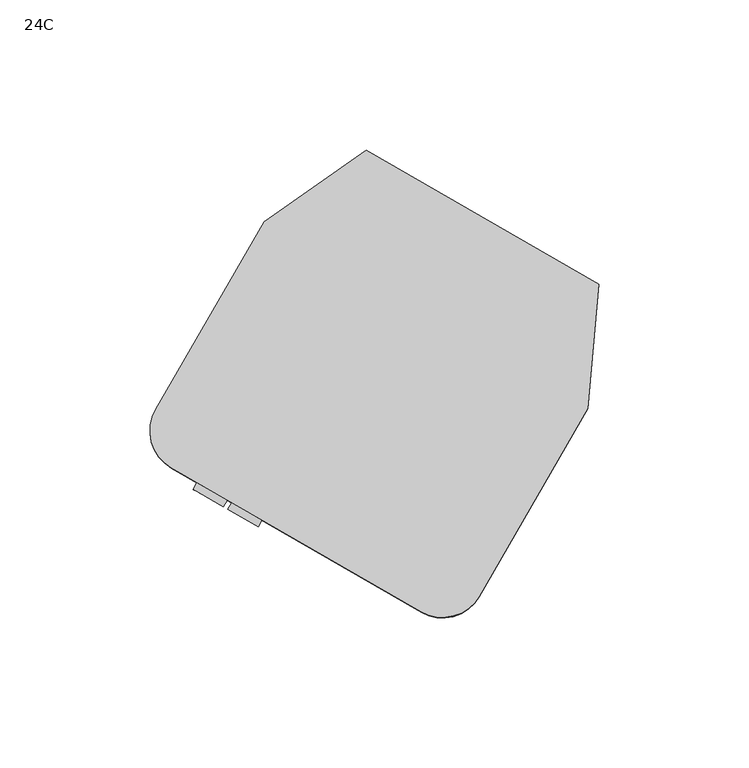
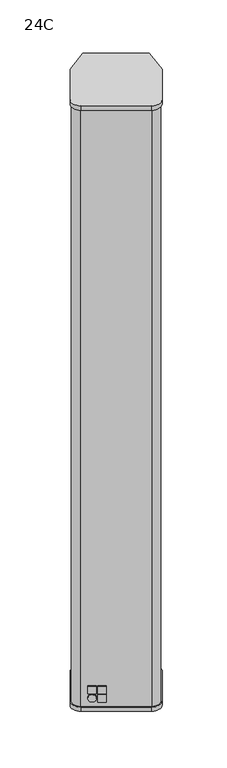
"""IFC4 building model written with IfcOpenShell, lengths in millimetres: proxy geometry, d&b xC-Series 24C Column : 24C."""

import ifcopenshell
import ifcopenshell.guid

model = None  # the IFC model being written
_history = None  # IfcOwnerHistory: only IFC2X3 demands one
_inside = {}  # id of a spatial element -> (the spatial element, [elements in it])
_under = {}  # id of a project, library or spatial element -> (it, [spatial elements below it])
_declared = {}  # id of a project -> (the project, [libraries it declares])
_typed = {}  # id of a type object -> (the type object, [elements of that type])
_made_of = {}  # id of a material, layer set ... -> (it, [elements and type objects made of it])


def new_model(schema):
    """Start an empty IFC model of exactly this schema.

    Asked for "IFC4X3", IfcOpenShell would pick the latest addendum, in which some entities
    have other attributes; the version numbers below select the first issue.
    IFC2X3 requires an IfcOwnerHistory on every rooted entity: one is made here for all.
    """
    global model, _history
    if schema == "IFC4X3":
        model = ifcopenshell.file(schema_version=(4, 3, 0, 0))
    else:
        model = ifcopenshell.file(schema=schema)
    _inside.clear()
    _under.clear()
    _declared.clear()
    _typed.clear()
    _made_of.clear()
    _history = None
    if model.schema == "IFC2X3":
        org = make("IfcOrganization", Name="unknown")
        user = make(
            "IfcPersonAndOrganization",
            ThePerson=make("IfcPerson", FamilyName="unknown"),
            TheOrganization=org,
        )
        app = make(
            "IfcApplication",
            ApplicationDeveloper=org,
            Version="unknown",
            ApplicationFullName="unknown",
            ApplicationIdentifier="unknown",
        )
        _history = make(
            "IfcOwnerHistory",
            OwningUser=user,
            OwningApplication=app,
            ChangeAction="ADDED",
            CreationDate=0,
        )
    return model


def make(cls, **values):
    """One entity of the class cls with the attributes given. An attribute that is None is left unset."""
    return model.create_entity(
        cls, **{name: value for name, value in values.items() if value is not None}
    )


def rooted(cls, **values):
    """An entity with a GlobalId (a new one), such as an element, a storey or a relation."""
    return make(cls, GlobalId=ifcopenshell.guid.new(), OwnerHistory=_history, **values)


def si_unit(unit_type, name, prefix=None):
    """IfcSIUnit, for example si_unit("LENGTHUNIT", "METRE", prefix="MILLI")."""
    return make("IfcSIUnit", UnitType=unit_type, Prefix=prefix, Name=name)


def assignment(units):
    """IfcUnitAssignment: the units of a project."""
    return None if units is None else make("IfcUnitAssignment", Units=units)


def point(xyz):
    """IfcCartesianPoint."""
    return None if xyz is None else make("IfcCartesianPoint", Coordinates=xyz)


def direction(xyz):
    """IfcDirection."""
    return None if xyz is None else make("IfcDirection", DirectionRatios=xyz)


def frame(location, z_axis=None, x_axis=None):
    """IfcAxis2Placement3D, a coordinate frame: its origin and axes. An axis left out is left unset."""
    return make(
        "IfcAxis2Placement3D",
        Location=point(location),
        Axis=direction(z_axis),
        RefDirection=direction(x_axis),
    )


def frame_2d(location, x_axis=None):
    """IfcAxis2Placement2D, a coordinate frame in the plane: its origin and x axis."""
    return make(
        "IfcAxis2Placement2D", Location=point(location), RefDirection=direction(x_axis)
    )


def origin():
    """The frame at (0, 0, 0) with its axes left unset."""
    return frame((0.0, 0.0, 0.0))


def place(relative_to, where):
    """IfcLocalPlacement: puts the frame where relative to a parent placement (None: the world)."""
    return make(
        "IfcLocalPlacement", PlacementRelTo=relative_to, RelativePlacement=where
    )


def context(
    kind, dimensions, precision=None, world=None, true_north=None, identifier=None
):
    """IfcGeometricRepresentationContext, for example the 3D "Model" context."""
    return make(
        "IfcGeometricRepresentationContext",
        ContextIdentifier=identifier,
        ContextType=kind,
        CoordinateSpaceDimension=dimensions,
        Precision=precision,
        WorldCoordinateSystem=world,
        TrueNorth=true_north,
    )


def project(units=None, contexts=None):
    """IfcProject with its units and contexts."""
    return rooted(
        "IfcProject",
        Name="project",
        RepresentationContexts=contexts,
        UnitsInContext=assignment(units),
    )


def spatial(cls, under=None, at=None, **own):
    """A site, building, storey or space (cls), placed at a placement, below another one or the project."""
    s = rooted(cls, ObjectPlacement=at, **own)
    if under is not None:
        _under.setdefault(under.id(), (under, []))[1].append(s)
    return s


def polyline(points):
    """IfcPolyline through the points."""
    return make("IfcPolyline", Points=[point(p) for p in points])


def circle_curve(where, radius):
    """IfcCircle in the frame where."""
    return make("IfcCircle", Position=where, Radius=radius)


def trimmed(basis, trim1, trim2, sense, master):
    """IfcTrimmedCurve: the piece of a basis curve between two trims."""
    return make(
        "IfcTrimmedCurve",
        BasisCurve=basis,
        Trim1=trim1,
        Trim2=trim2,
        SenseAgreement=sense,
        MasterRepresentation=master,
    )


def segment(curve, same_sense, transition):
    """IfcCompositeCurveSegment."""
    return make(
        "IfcCompositeCurveSegment",
        Transition=transition,
        SameSense=same_sense,
        ParentCurve=curve,
    )


def composite_curve(segments, self_intersect=None):
    """IfcCompositeCurve: segments joined end to end."""
    return make("IfcCompositeCurve", Segments=segments, SelfIntersect=self_intersect)


def outline(outer, holes=None, kind="AREA"):
    """IfcArbitraryClosedProfileDef: a profile drawn as a closed curve; with holes, ...WithVoids."""
    if holes is None:
        return make("IfcArbitraryClosedProfileDef", ProfileType=kind, OuterCurve=outer)
    return make(
        "IfcArbitraryProfileDefWithVoids",
        ProfileType=kind,
        OuterCurve=outer,
        InnerCurves=holes,
    )


def extrude(swept, where, along, depth):
    """IfcExtrudedAreaSolid: the profile swept, set in the frame where, extruded along a direction by depth."""
    return make(
        "IfcExtrudedAreaSolid",
        SweptArea=swept,
        Position=where,
        ExtrudedDirection=direction(along),
        Depth=depth,
    )


def shape(context_of_items, identifier, shape_type, items):
    """IfcShapeRepresentation: the items that make up one representation, for example the "Body"."""
    return make(
        "IfcShapeRepresentation",
        ContextOfItems=context_of_items,
        RepresentationIdentifier=identifier,
        RepresentationType=shape_type,
        Items=items,
    )


def source(mapping_origin, context_of_items, identifier, shape_type, items):
    """IfcRepresentationMap: a shape defined once, which mapped items show again and again."""
    return make(
        "IfcRepresentationMap",
        MappingOrigin=mapping_origin,
        MappedRepresentation=shape(context_of_items, identifier, shape_type, items),
    )


def transform(
    local_origin,
    x_axis=None,
    y_axis=None,
    z_axis=None,
    scale=None,
    scale2=None,
    scale3=None,
    uniform=True,
):
    """IfcCartesianTransformationOperator3D, or its non-uniform kind. x_axis, y_axis, z_axis: its Axis1, 2, 3."""
    if uniform:
        return make(
            "IfcCartesianTransformationOperator3D",
            Axis1=direction(x_axis),
            Axis2=direction(y_axis),
            LocalOrigin=point(local_origin),
            Scale=scale,
            Axis3=direction(z_axis),
        )
    return make(
        "IfcCartesianTransformationOperator3DnonUniform",
        Axis1=direction(x_axis),
        Axis2=direction(y_axis),
        LocalOrigin=point(local_origin),
        Scale=scale,
        Axis3=direction(z_axis),
        Scale2=scale2,
        Scale3=scale3,
    )


def mapped(mapping_source, mapping_target):
    """IfcMappedItem: shows the shape of a source again, moved by a transform."""
    return make(
        "IfcMappedItem", MappingSource=mapping_source, MappingTarget=mapping_target
    )


def made_of(thing, what):
    """Note that an element or type object is made of a material, layer set ...; save() writes the relation."""
    if what is not None:
        _made_of.setdefault(what.id(), (what, []))[1].append(thing)
    return thing


def element(
    cls,
    number,
    at=None,
    inside=None,
    cuts=None,
    type_object=None,
    material=None,
    context=None,
    identifier="Body",
    shape_type=None,
    held_by="IfcProductDefinitionShape",
    body=None,
    shapes=None,
    **own,
):
    """One element of the class cls, such as IfcWall. Its Tag is "e" and its number.

    at: its placement. inside: the storey or other place that contains it. cuts: it is an
    opening in that element (IfcRelVoidsElement). A single representation is given by context,
    identifier, shape_type and body (its items); several are given by shapes. held_by: the class
    of the entity that holds the representations. save() writes the other relations.
    """
    e = rooted(cls, Tag="e%d" % number, ObjectPlacement=at, **own)
    if body is not None:
        shapes = [shape(context, identifier, shape_type, body)]
    if shapes is not None:
        e.Representation = make(held_by, Representations=shapes)
    if inside is not None:
        _inside.setdefault(inside.id(), (inside, []))[1].append(e)
    if cuts is not None:
        rooted(
            "IfcRelVoidsElement", RelatingBuildingElement=cuts, RelatedOpeningElement=e
        )
    if type_object is not None:
        _typed.setdefault(type_object.id(), (type_object, []))[1].append(e)
    return made_of(e, material)


def aggregate(whole, parts):
    """IfcRelAggregates: a whole, such as a stair, and the parts it consists of."""
    return rooted("IfcRelAggregates", RelatingObject=whole, RelatedObjects=parts)


def save(model, path):
    """Write the relations noted so far, then the file.

    IfcRelAggregates (storeys below a building ...), IfcRelContainedInSpatialStructure (elements
    in a storey), IfcRelDefinesByType, IfcRelAssociatesMaterial and IfcRelDeclares: one each for
    every whole, place, type object, material and project.
    """
    for whole, parts in _under.values():
        aggregate(whole, parts)
    for where, things in _inside.values():
        rooted(
            "IfcRelContainedInSpatialStructure",
            RelatedElements=things,
            RelatingStructure=where,
        )
    for kind, things in _typed.values():
        rooted("IfcRelDefinesByType", RelatedObjects=things, RelatingType=kind)
    for what, things in _made_of.values():
        rooted("IfcRelAssociatesMaterial", RelatedObjects=things, RelatingMaterial=what)
    for by, libraries in _declared.values():
        rooted("IfcRelDeclares", RelatingContext=by, RelatedDefinitions=libraries)
    model.write(path)


def plane_surface(at):
    """IfcPlane: the flat surface through the origin of the frame at, square to its z axis."""
    return make("IfcPlane", Position=at)


def cylinder_surface(at, radius):
    """IfcCylindricalSurface: all points at the distance radius from the z axis of the frame at."""
    return make("IfcCylindricalSurface", Position=at, Radius=radius)


def revolved_surface(curve, axis_point, axis_direction):
    """IfcSurfaceOfRevolution: the curve turned about the line through axis_point along axis_direction."""
    return make(
        "IfcSurfaceOfRevolution",
        SweptCurve=make("IfcArbitraryOpenProfileDef", ProfileType="CURVE", Curve=curve),
        AxisPosition=make("IfcAxis1Placement", Location=point(axis_point), Axis=direction(axis_direction)),
    )


def advanced_brep(points, edges, surfaces, faces):
    """IfcAdvancedBrep: a solid bounded by faces that lie on surfaces and meet in shared edges.

    An edge is (start, end): straight between two places in points (the first is 0);
    or (start, end, curve); or (start, end, curve, False) where it runs against its curve.
    A face is (place in surfaces, loops), or (place, loops, False) where it looks against
    its surface's normal. A loop lists edges by number (the first is 1), with a minus sign
    where the edge is run from its end to its start. The first loop is the outer one.
    """
    corners = [point(p) for p in points]
    vertices = [make("IfcVertexPoint", VertexGeometry=c) for c in corners]
    made = []
    for start, end, *more in edges:
        made.append(
            make(
                "IfcEdgeCurve",
                EdgeStart=vertices[start],
                EdgeEnd=vertices[end],
                EdgeGeometry=more[0] if more else make("IfcPolyline", Points=[corners[start], corners[end]]),
                SameSense=more[1] if len(more) > 1 else True,
            )
        )
    hull = []
    for where, loops, *sense in faces:
        bounds = []
        for j, loop in enumerate(loops):
            ring = [make("IfcOrientedEdge", EdgeElement=made[abs(k) - 1], Orientation=k > 0) for k in loop]
            bounds.append(
                make(
                    "IfcFaceOuterBound" if j == 0 else "IfcFaceBound",
                    Bound=make("IfcEdgeLoop", EdgeList=ring),
                    Orientation=True,
                )
            )
        hull.append(make("IfcAdvancedFace", Bounds=bounds, FaceSurface=surfaces[where], SameSense=sense[0] if sense else True))
    return make("IfcAdvancedBrep", Outer=make("IfcClosedShell", CfsFaces=hull))


def proxy_24c_47315b2a(model_context):
    return source(origin(), model_context, "Body", "SolidModel", [
        extrude(outline(polyline([(64.5226291, 20.6334154), (67.0131158, 20.4155261), (65.7069852, 5.4863846), (63.2164984, 5.7042739), (64.5226291, 20.6334154)])), frame((0.0, 0.0, -493.0), z_axis=(0.0, 0.0, 1.0), x_axis=(1.0, 0.0, 0.0)), (0.0, 0.0, 1.0), 986.0),
        extrude(outline(polyline([(-14.3922526, 66.1949436), (-26.6682031, 57.5992305), (-28.1021442, 59.6471107), (-15.8261937, 68.2428237), (-14.3922526, 66.1949436)])), frame((0.0, 0.0, -493.0), z_axis=(0.0, 0.0, 1.0), x_axis=(1.0, 0.0, 0.0)), (0.0, 0.0, 1.0), 986.0),
        advanced_brep(
        [(2.3688858, 68.2030306, 493.0), (-7.6346732, 73.9785881, 493.0), (-15.8261937, 68.2428237, 493.0), (-14.3922526, 66.1949436, 493.0), (-26.6682031, 57.5992305, 493.0), (-28.1021442, 59.6471107, 493.0), (-40.3894248, 51.0434641, 493.0), (-76.3756029, -11.2864248, 493.0), (-71.8779311, -28.0719646, 493.0), (11.6279311, -76.2840966, 493.0), (28.4134709, -71.7864248, 493.0), (64.399649, -9.4565359, 493.0), (65.7069852, 5.4863846, 493.0), (63.2164984, 5.7042739, 493.0), (64.5226291, 20.6334154, 493.0), (67.0131158, 20.4155261, 493.0), (67.8846732, 30.3774731, 493.0), (57.8811142, 36.1530306, 493.0), (56.7811138, 34.247774, 493.0), (60.4184208, 32.1477739, 493.0), (59.0411882, 29.7623371, 493.0), (53.5148858, 28.2815688, 493.0), (46.2364037, 32.4838025, 493.0), (44.7540011, 38.0162043, 493.0), (46.1290011, 40.3977742, 493.0), (49.766308, 38.297774, 493.0), (50.8663084, 40.2030306, 493.0), (43.1153811, 44.6780306, 493.0), (38.1153811, 36.0177765, 493.0), (12.1346189, 51.0177765, 493.0), (17.1346189, 59.6780306, 493.0), (9.3836916, 64.1530306, 493.0), (8.2836912, 62.247774, 493.0), (11.9209982, 60.1477739, 493.0), (10.5459982, 57.766204, 493.0), (5.0135963, 56.2838014, 493.0), (-2.2648858, 60.486035, 493.0), (-3.7456541, 66.0123374, 493.0), (-2.3684216, 68.3977742, 493.0), (1.2688854, 66.297774, 493.0), (2.3688858, 68.2030306, -493.0), (1.2688854, 66.297774, -493.0), (-2.3684216, 68.3977742, -493.0), (-3.7456541, 66.0123374, -493.0), (-2.2648858, 60.486035, -493.0), (5.0135963, 56.2838014, -493.0), (10.5459982, 57.766204, -493.0), (11.9209982, 60.1477739, -493.0), (8.2836912, 62.247774, -493.0), (9.3836916, 64.1530306, -493.0), (50.8663084, 40.2030306, -493.0), (49.766308, 38.297774, -493.0), (46.1290011, 40.3977742, -493.0), (44.7540011, 38.0162043, -493.0), (46.2364037, 32.4838025, -493.0), (53.5148858, 28.2815688, -493.0), (59.0411882, 29.7623371, -493.0), (60.4184208, 32.1477739, -493.0), (56.7811138, 34.247774, -493.0), (57.8811142, 36.1530306, -493.0), (67.8846732, 30.3774731, -493.0), (67.0131158, 20.4155261, -493.0), (64.5226291, 20.6334154, -493.0), (63.2164984, 5.7042739, -493.0), (65.7069852, 5.4863846, -493.0), (64.399649, -9.4565359, -493.0), (28.4134709, -71.7864248, -493.0), (11.6279311, -76.2840966, -493.0), (-71.8779311, -28.0719646, -493.0), (-76.3756029, -11.2864248, -493.0), (-40.3894248, 51.0434641, -493.0), (-28.1021442, 59.6471107, -493.0), (-26.6682031, 57.5992305, -493.0), (-14.3922526, 66.1949436, -493.0), (-15.8261937, 68.2428237, -493.0), (-7.6346732, 73.9785881, -493.0), (17.1346189, 59.6780306, 461.5), (19.2996825, 58.4280306, 459.0), (40.9503175, 45.9280306, 459.0), (43.1153811, 44.6780306, 461.5), (27.2021643, 53.8655306, -263.5), (27.2021643, 53.8655306, -365.0), (33.0478357, 50.4905306, -365.0), (33.0478357, 50.4905306, -263.5), (38.1153811, 36.0177765, 461.5), (35.9503175, 37.2677765, 459.0), (14.2996825, 49.7677765, 459.0), (12.1346189, 51.0177765, 461.5), (25.5771643, 51.050948, -365.0), (25.5771643, 51.050948, -263.5), (31.4228357, 47.675948, -263.5), (31.4228357, 47.675948, -365.0)],
        [
            (0, 1),
            (1, 2),
            (2, 3),
            (3, 4),
            (4, 5),
            (5, 6),
            (6, 7),
            (7, 8, circle_curve(frame((-65.7339971, -17.4303587, 493.0), z_axis=(0.0, 0.0, 1.0), x_axis=(-0.8660254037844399, 0.4999999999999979, 0.0)), 12.287868)),
            (8, 9),
            (9, 10, circle_curve(frame((17.7718651, -65.6424908, 493.0), z_axis=(0.0, 0.0, 1.0), x_axis=(-0.8660254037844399, 0.4999999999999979, 0.0)), 12.287868)),
            (10, 11),
            (11, 12),
            (12, 13),
            (13, 14),
            (14, 15),
            (15, 16),
            (16, 17),
            (17, 18),
            (18, 19),
            (19, 20),
            (20, 21),
            (21, 22),
            (22, 23),
            (23, 24),
            (24, 25),
            (25, 26),
            (26, 27),
            (27, 28),
            (28, 29),
            (29, 30),
            (30, 31),
            (31, 32),
            (32, 33),
            (33, 34),
            (34, 35),
            (35, 36),
            (36, 37),
            (37, 38),
            (38, 39),
            (39, 0),
            (40, 41),
            (41, 42),
            (42, 43),
            (43, 44),
            (44, 45),
            (45, 46),
            (46, 47),
            (47, 48),
            (48, 49),
            (49, 50),
            (50, 51),
            (51, 52),
            (52, 53),
            (53, 54),
            (54, 55),
            (55, 56),
            (56, 57),
            (57, 58),
            (58, 59),
            (59, 60),
            (60, 61),
            (61, 62),
            (62, 63),
            (63, 64),
            (64, 65),
            (65, 66),
            (66, 67, circle_curve(frame((17.7718651, -65.6424908, -493.0), z_axis=(0.0, 0.0, -1.0), x_axis=(-0.8660254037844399, 0.4999999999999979, 0.0)), 12.287868)),
            (67, 68),
            (68, 69, circle_curve(frame((-65.7339971, -17.4303587, -493.0), z_axis=(0.0, 0.0, -1.0), x_axis=(-0.8660254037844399, 0.4999999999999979, 0.0)), 12.287868)),
            (69, 70),
            (70, 71),
            (71, 72),
            (72, 73),
            (73, 74),
            (74, 75),
            (75, 40),
            (0, 40),
            (75, 1),
            (6, 70),
            (69, 7),
            (68, 8),
            (67, 9),
            (66, 10),
            (65, 11),
            (64, 12),
            (16, 60),
            (59, 17),
            (58, 18),
            (57, 19),
            (56, 20),
            (55, 21),
            (54, 22),
            (53, 23),
            (52, 24),
            (51, 25),
            (50, 26),
            (49, 31),
            (30, 76),
            (76, 77, circle_curve(frame((19.2996825, 58.4280306, 461.5), z_axis=(-0.5000000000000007, -0.8660254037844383, 0.0), x_axis=(-0.8660254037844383, 0.5000000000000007, 0.0)), 2.5)),
            (77, 78),
            (78, 79, circle_curve(frame((40.9503175, 45.9280306, 461.5), z_axis=(-0.5000000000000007, -0.8660254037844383, 0.0), x_axis=(-0.8660254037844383, 0.5000000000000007, 0.0)), 2.5)),
            (79, 27),
            (80, 81),
            (81, 82, circle_curve(frame((30.125, 52.1780306, -365.0), z_axis=(-0.5000000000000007, -0.8660254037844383, 0.0), x_axis=(-0.8660254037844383, 0.5000000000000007, 0.0)), 3.375)),
            (82, 83),
            (83, 80, circle_curve(frame((30.125, 52.1780306, -263.5), z_axis=(-0.5000000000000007, -0.8660254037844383, 0.0), x_axis=(-0.8660254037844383, 0.5000000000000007, 0.0)), 3.375)),
            (48, 32),
            (47, 33),
            (46, 34),
            (45, 35),
            (44, 36),
            (43, 37),
            (42, 38),
            (41, 39),
            (84, 85, circle_curve(frame((35.9503175, 37.2677765, 461.5), z_axis=(0.5000000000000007, 0.8660254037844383, 0.0), x_axis=(-0.8660254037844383, 0.5000000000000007, 0.0)), 2.5)),
            (85, 86),
            (86, 87, circle_curve(frame((14.2996825, 49.7677765, 461.5), z_axis=(0.5000000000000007, 0.8660254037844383, 0.0), x_axis=(-0.8660254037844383, 0.5000000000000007, 0.0)), 2.5)),
            (87, 29),
            (28, 84),
            (84, 79),
            (78, 85),
            (77, 86),
            (76, 87),
            (88, 89),
            (89, 90, circle_curve(frame((28.5, 49.363448, -263.5), z_axis=(0.5000000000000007, 0.8660254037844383, 0.0), x_axis=(-0.8660254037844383, 0.5000000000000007, 0.0)), 3.375)),
            (90, 91),
            (91, 88, circle_curve(frame((28.5, 49.363448, -365.0), z_axis=(0.5000000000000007, 0.8660254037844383, 0.0), x_axis=(-0.8660254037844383, 0.5000000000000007, 0.0)), 3.375)),
            (88, 81),
            (80, 89),
            (83, 90),
            (82, 91),
            (63, 13),
            (62, 14),
            (61, 15),
            (74, 2),
            (73, 3),
            (72, 4),
            (71, 5),
        ],
        [
            plane_surface(frame((-6.2553757, 73.1822503, 493.0), z_axis=(0.0, 0.0, 1.0), x_axis=(-0.8660254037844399, 0.4999999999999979, 0.0))),
            plane_surface(frame((-6.2553757, 73.1822503, -493.0), z_axis=(0.0, 0.0, -1.0), x_axis=(0.8660254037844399, -0.4999999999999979, 0.0))),
            plane_surface(frame((2.3688858, 68.2030306, 493.0), z_axis=(0.4999999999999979, 0.8660254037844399, 0.0), x_axis=(0.0, 0.0, -1.0))),
            plane_surface(frame((-40.3894248, 51.0434641, 493.0), z_axis=(-0.8660254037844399, 0.4999999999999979, 0.0), x_axis=(0.0, 0.0, -1.0))),
            cylinder_surface(frame((-65.7339971, -17.4303587, -493.0), z_axis=(0.0, 0.0, 1.0), x_axis=(-0.8660254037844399, 0.4999999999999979, 0.0)), 12.287868),
            plane_surface(frame((-71.8779311, -28.0719646, 493.0), z_axis=(-0.4999999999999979, -0.8660254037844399, 0.0), x_axis=(0.0, 0.0, -1.0))),
            cylinder_surface(frame((17.7718651, -65.6424908, -493.0), z_axis=(0.0, 0.0, 1.0), x_axis=(-0.8660254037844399, 0.4999999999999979, 0.0)), 12.287868),
            plane_surface(frame((28.4134709, -71.7864248, 493.0), z_axis=(0.8660254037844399, -0.4999999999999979, 0.0), x_axis=(0.0, 0.0, -1.0))),
            plane_surface(frame((64.399649, -9.4565359, 493.0), z_axis=(0.9961946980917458, -0.0871557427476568, 0.0), x_axis=(0.0, 0.0, -1.0))),
            plane_surface(frame((67.8846732, 30.3774731, 493.0), z_axis=(0.4999999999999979, 0.8660254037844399, 0.0), x_axis=(0.0, 0.0, -1.0))),
            plane_surface(frame((57.8811142, 36.1530306, 493.0), z_axis=(-0.8660254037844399, 0.4999999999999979, 0.0), x_axis=(0.0, 0.0, -1.0))),
            plane_surface(frame((56.7811138, 34.247774, 493.0), z_axis=(-0.49999999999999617, -0.8660254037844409, 0.0), x_axis=(0.0, 0.0, -1.0))),
            plane_surface(frame((60.4184208, 32.1477739, 493.0), z_axis=(-0.8660254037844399, 0.4999999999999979, 0.0), x_axis=(0.0, 0.0, -1.0))),
            plane_surface(frame((59.0411882, 29.7623371, 493.0), z_axis=(-0.2588190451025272, 0.9659258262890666, 0.0), x_axis=(0.0, 0.0, -1.0))),
            plane_surface(frame((53.5148858, 28.2815688, 493.0), z_axis=(0.499999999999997, 0.8660254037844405, 0.0), x_axis=(0.0, 0.0, -1.0))),
            plane_surface(frame((46.2364037, 32.4838025, 493.0), z_axis=(0.9659258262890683, 0.2588190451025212, 0.0), x_axis=(0.0, 0.0, -1.0))),
            plane_surface(frame((44.7540011, 38.0162043, 493.0), z_axis=(0.8660254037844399, -0.4999999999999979, 0.0), x_axis=(0.0, 0.0, -1.0))),
            plane_surface(frame((46.1290011, 40.3977742, 493.0), z_axis=(-0.49999999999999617, -0.8660254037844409, 0.0), x_axis=(0.0, 0.0, -1.0))),
            plane_surface(frame((49.766308, 38.297774, 493.0), z_axis=(0.8660254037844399, -0.4999999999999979, 0.0), x_axis=(0.0, 0.0, -1.0))),
            plane_surface(frame((50.8663084, 40.2030306, 493.0), z_axis=(0.4999999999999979, 0.8660254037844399, 0.0), x_axis=(0.0, 0.0, -1.0))),
            plane_surface(frame((9.3836916, 64.1530306, 493.0), z_axis=(-0.8660254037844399, 0.4999999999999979, 0.0), x_axis=(0.0, 0.0, -1.0))),
            plane_surface(frame((8.2836912, 62.247774, 493.0), z_axis=(-0.49999999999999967, -0.8660254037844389, 0.0), x_axis=(0.0, 0.0, -1.0))),
            plane_surface(frame((11.9209982, 60.1477739, 493.0), z_axis=(-0.8660254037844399, 0.4999999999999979, 0.0), x_axis=(0.0, 0.0, -1.0))),
            plane_surface(frame((10.5459982, 57.766204, 493.0), z_axis=(-0.2588190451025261, 0.965925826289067, 0.0), x_axis=(0.0, 0.0, -1.0))),
            plane_surface(frame((5.0135963, 56.2838014, 493.0), z_axis=(0.5000000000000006, 0.8660254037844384, 0.0), x_axis=(0.0, 0.0, -1.0))),
            plane_surface(frame((-2.2648858, 60.486035, 493.0), z_axis=(0.9659258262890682, 0.2588190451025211, 0.0), x_axis=(0.0, 0.0, -1.0))),
            plane_surface(frame((-3.7456541, 66.0123374, 493.0), z_axis=(0.8660254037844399, -0.4999999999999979, 0.0), x_axis=(0.0, 0.0, -1.0))),
            plane_surface(frame((-2.3684216, 68.3977742, 493.0), z_axis=(-0.49999999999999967, -0.8660254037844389, 0.0), x_axis=(0.0, 0.0, -1.0))),
            plane_surface(frame((1.2688854, 66.297774, 493.0), z_axis=(0.8660254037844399, -0.4999999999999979, 0.0), x_axis=(0.0, 0.0, -1.0))),
            plane_surface(frame((33.785254, 38.5177765, 461.5), z_axis=(0.5000000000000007, 0.8660254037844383, 0.0), x_axis=(0.0, 0.0, -1.0))),
            revolved_surface(polyline([(38.785254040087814, 47.17803062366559, 461.5), (33.785253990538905, 38.5177765, 461.5)]), (35.9503175, 37.2677765, 461.5), (0.5000000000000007, 0.8660254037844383, 0.0)),
            plane_surface(frame((41.8253175, 47.443575, 459.0), z_axis=(0.0, 0.0, 1.0), x_axis=(-0.5000000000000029, -0.866025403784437, 0.0))),
            revolved_surface(polyline([(17.134619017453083, 59.67803058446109, 461.5), (12.134618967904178, 51.0177764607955, 461.5)]), (14.2996825, 49.7677765, 461.5), (0.5000000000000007, 0.8660254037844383, 0.0)),
            plane_surface(frame((18.0096189, 61.193575, 461.5), z_axis=(0.866025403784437, -0.5000000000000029, 0.0), x_axis=(-0.5000000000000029, -0.866025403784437, 0.0))),
            plane_surface(frame((43.9903811, 46.193575, 493.0), z_axis=(-0.866025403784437, 0.5000000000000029, 0.0), x_axis=(-0.5000000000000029, -0.866025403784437, 0.0))),
            plane_surface(frame((25.5771643, 51.050948, -286.8896769), z_axis=(0.5000000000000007, 0.8660254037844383, 0.0), x_axis=(0.0, 0.0, -1.0))),
            plane_surface(frame((28.0771643, 55.381075, -365.0), z_axis=(0.8660254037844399, -0.4999999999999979, 0.0), x_axis=(-0.4999999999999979, -0.8660254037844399, 0.0))),
            revolved_surface(polyline([(27.20216428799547, 53.86553060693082, -263.5), (25.5771642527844, 51.050947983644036, -263.5)]), (28.5, 49.363448, -263.5), (0.5000000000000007, 0.8660254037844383, 0.0)),
            plane_surface(frame((33.9228357, 52.006075, -263.5), z_axis=(-0.8660254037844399, 0.4999999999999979, 0.0), x_axis=(-0.4999999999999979, -0.8660254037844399, 0.0))),
            revolved_surface(polyline([(27.20216428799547, 53.86553060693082, -365.0), (25.5771642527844, 51.050947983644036, -365.0)]), (28.5, 49.363448, -365.0), (0.5000000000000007, 0.8660254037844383, 0.0)),
            plane_surface(frame((65.7069852, 5.4863846, 493.0), z_axis=(0.08715574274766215, 0.9961946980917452, 0.0), x_axis=(0.0, 0.0, -1.0))),
            plane_surface(frame((63.2164984, 5.7042739, 493.0), z_axis=(0.9961946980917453, -0.08715574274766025, 0.0), x_axis=(0.0, 0.0, -1.0))),
            plane_surface(frame((64.5226291, 20.6334154, 493.0), z_axis=(-0.08715574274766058, -0.9961946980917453, 0.0), x_axis=(0.0, 0.0, -1.0))),
            plane_surface(frame((67.0131158, 20.4155261, 493.0), z_axis=(0.9961946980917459, -0.08715574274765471, 0.0), x_axis=(0.0, 0.0, -1.0))),
            plane_surface(frame((-7.6346732, 73.9785881, 493.0), z_axis=(-0.573576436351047, 0.8191520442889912, 0.0), x_axis=(0.0, 0.0, -1.0))),
            plane_surface(frame((-15.8261937, 68.2428237, 493.0), z_axis=(-0.8191520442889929, -0.5735764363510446, 0.0), x_axis=(0.0, 0.0, -1.0))),
            plane_surface(frame((-14.3922526, 66.1949436, 493.0), z_axis=(-0.5735764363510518, 0.8191520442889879, 0.0), x_axis=(0.0, 0.0, -1.0))),
            plane_surface(frame((-26.6682031, 57.5992305, 493.0), z_axis=(0.8191520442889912, 0.5735764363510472, 0.0), x_axis=(0.0, 0.0, -1.0))),
            plane_surface(frame((-28.1021442, 59.6471107, 493.0), z_axis=(-0.5735764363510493, 0.8191520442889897, 0.0), x_axis=(0.0, 0.0, -1.0))),
        ],
        [
            (0, [[1, 2, 3, 4, 5, 6, 7, 8, 9, 10, 11, 12, 13, 14, 15, 16, 17, 18, 19, 20, 21, 22, 23, 24, 25, 26, 27, 28, 29, 30, 31, 32, 33, 34, 35, 36, 37, 38, 39, 40]]),
            (1, [[41, 42, 43, 44, 45, 46, 47, 48, 49, 50, 51, 52, 53, 54, 55, 56, 57, 58, 59, 60, 61, 62, 63, 64, 65, 66, 67, 68, 69, 70, 71, 72, 73, 74, 75, 76]]),
            (2, [[-1, 77, -76, 78]]),
            (3, [[-7, 79, -70, 80]]),
            (4, [[-8, -80, -69, 81]]),
            (5, [[-9, -81, -68, 82]]),
            (6, [[-10, -82, -67, 83]]),
            (7, [[-11, -83, -66, 84]]),
            (8, [[-12, -84, -65, 85]]),
            (9, [[-17, 86, -60, 87]]),
            (10, [[-18, -87, -59, 88]]),
            (11, [[-19, -88, -58, 89]]),
            (12, [[-20, -89, -57, 90]]),
            (13, [[-21, -90, -56, 91]]),
            (14, [[-22, -91, -55, 92]]),
            (15, [[-23, -92, -54, 93]]),
            (16, [[-24, -93, -53, 94]]),
            (17, [[-25, -94, -52, 95]]),
            (18, [[-26, -95, -51, 96]]),
            (19, [[-50, 97, -31, 98, 99, 100, 101, 102, -27, -96], [103, 104, 105, 106]]),
            (20, [[-32, -97, -49, 107]]),
            (21, [[-33, -107, -48, 108]]),
            (22, [[-34, -108, -47, 109]]),
            (23, [[-35, -109, -46, 110]]),
            (24, [[-36, -110, -45, 111]]),
            (25, [[-37, -111, -44, 112]]),
            (26, [[-38, -112, -43, 113]]),
            (27, [[-39, -113, -42, 114]]),
            (28, [[-40, -114, -41, -77]]),
            (29, [[115, 116, 117, 118, -29, 119]]),
            (30, [[-115, 120, -101, 121]]),
            (31, [[-116, -121, -100, 122]]),
            (32, [[-117, -122, -99, 123]]),
            (33, [[-118, -123, -98, -30]]),
            (34, [[-119, -28, -102, -120]]),
            (35, [[124, 125, 126, 127]]),
            (36, [[-124, 128, -103, 129]]),
            (37, [[-125, -129, -106, 130]]),
            (38, [[-126, -130, -105, 131]]),
            (39, [[-127, -131, -104, -128]]),
            (40, [[-13, -85, -64, 132]]),
            (41, [[-14, -132, -63, 133]]),
            (42, [[-15, -133, -62, 134]]),
            (43, [[-16, -134, -61, -86]]),
            (44, [[-2, -78, -75, 135]]),
            (45, [[-3, -135, -74, 136]]),
            (46, [[-4, -136, -73, 137]]),
            (47, [[-5, -137, -72, 138]]),
            (48, [[-6, -138, -71, -79]]),
        ],
    ),
        extrude(outline(polyline([(-64.0926771, -34.587509), (-53.9890474, -40.4208424), (-55.2390474, -42.5859059), (-65.3426771, -36.7525725), (-64.0926771, -34.587509)])), frame((0.0, 0.0, -469.6666667), z_axis=(0.0, 0.0, 1.0), x_axis=(1.0, 0.0, 0.0)), (0.0, 0.0, 1.0), 11.6666667),
        extrude(outline(polyline([(-52.5456717, -41.2541757), (-42.442042, -47.087509), (-43.692042, -49.2525725), (-53.7956717, -43.4192392), (-52.5456717, -41.2541757)])), frame((0.0, 0.0, -469.6666667), z_axis=(0.0, 0.0, 1.0), x_axis=(1.0, 0.0, 0.0)), (0.0, 0.0, 1.0), 11.6666667),
        extrude(outline(polyline([(-52.5456717, -41.2541757), (-42.442042, -47.087509), (-43.692042, -49.2525725), (-53.7956717, -43.4192392), (-52.5456717, -41.2541757)])), frame((0.0, 0.0, -483.0), z_axis=(0.0, 0.0, 1.0), x_axis=(1.0, 0.0, 0.0)), (0.0, 0.0, 1.0), 11.6666667),
        extrude(outline(composite_curve([segment(trimmed(circle_curve(frame_2d((-0.9849738, -5.8333333)), 5.8333333), [point((-0.9849738, 0.0))], [point((-0.9849738, -11.6666667))], False, "CARTESIAN"), True, "CONTINUOUS"), segment(trimmed(circle_curve(frame_2d((-0.9849738, -5.8333333)), 5.8333333), [point((-0.9849738, -11.6666667))], [point((-0.9849738, 0.0))], False, "CARTESIAN"), True, "CONTINUOUS")], self_intersect=False)), frame((-55.2390474, -42.5859059, -476.1816929), z_axis=(0.5000000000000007, 0.8660254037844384, 0.0), x_axis=(0.0, 0.0, 1.0)), (0.0, 0.0, 1.0), 2.5),
        extrude(outline(composite_curve([segment(polyline([(69.7251815, 31.335581), (66.1091763, -9.9955478), (30.0350814, -72.477713)]), True, "CONTINUOUS"), segment(trimmed(circle_curve(frame_2d((17.6942194, -65.352713)), 14.25), [point((30.0350814, -72.477713))], [point((10.5692194, -77.693575))], False, "CARTESIAN"), True, "CONTINUOUS"), segment(polyline([(10.5692194, -77.693575), (-72.5692194, -29.693575)]), True, "CONTINUOUS"), segment(trimmed(circle_curve(frame_2d((-65.4442194, -17.352713)), 14.25), [point((-72.5692194, -29.693575))], [point((-77.7850814, -10.227713))], False, "CARTESIAN"), True, "CONTINUOUS"), segment(polyline([(-77.7850814, -10.227713), (-41.7109865, 52.2544522), (-7.7251815, 76.051569), (69.7251815, 31.335581)]), True, "CONTINUOUS")], self_intersect=False)), frame((0.0, 0.0, -500.0), z_axis=(0.0, 0.0, 1.0), x_axis=(1.0, 0.0, 0.0)), (0.0, 0.0, 1.0), 7.0),
        extrude(outline(composite_curve([segment(polyline([(69.7251815, 31.335581), (66.1091763, -9.9955478), (30.0350814, -72.477713)]), True, "CONTINUOUS"), segment(trimmed(circle_curve(frame_2d((17.6942194, -65.352713)), 14.25), [point((30.0350814, -72.477713))], [point((10.5692194, -77.693575))], False, "CARTESIAN"), True, "CONTINUOUS"), segment(polyline([(10.5692194, -77.693575), (-72.5692194, -29.693575)]), True, "CONTINUOUS"), segment(trimmed(circle_curve(frame_2d((-65.4442194, -17.352713)), 14.25), [point((-72.5692194, -29.693575))], [point((-77.7850814, -10.227713))], False, "CARTESIAN"), True, "CONTINUOUS"), segment(polyline([(-77.7850814, -10.227713), (-41.7109865, 52.2544522), (-7.7251815, 76.051569), (69.7251815, 31.335581)]), True, "CONTINUOUS")], self_intersect=False)), frame((0.0, 0.0, 493.0), z_axis=(0.0, 0.0, 1.0), x_axis=(1.0, 0.0, 0.0)), (0.0, 0.0, 1.0), 7.0),
    ])


if __name__ == "__main__":
    model = new_model("IFC4")
    model_context = context("Model", 3, world=origin())
    ifc_project = project(units=[si_unit("LENGTHUNIT", "METRE", prefix="MILLI")], contexts=[model_context])
    site = spatial("IfcSite", under=ifc_project)
    building = spatial("IfcBuilding", under=site)
    placement = place(None, origin())
    proxy_24c_shape = proxy_24c_47315b2a(model_context)
    element("IfcBuildingElementProxy", 1, Name="d&b xC-Series 24C Column : 24C", ObjectType="d&b xC-Series 24C Column : 24C", at=placement, inside=building, context=model_context, shape_type="MappedRepresentation", body=[
        mapped(proxy_24c_shape, transform((0.0, 0.0, 0.0), x_axis=(1.0, 0.0, 0.0), y_axis=(0.0, 1.0, 0.0), z_axis=(0.0, 0.0, 1.0))),
    ])
    save(model, "model.ifc")
